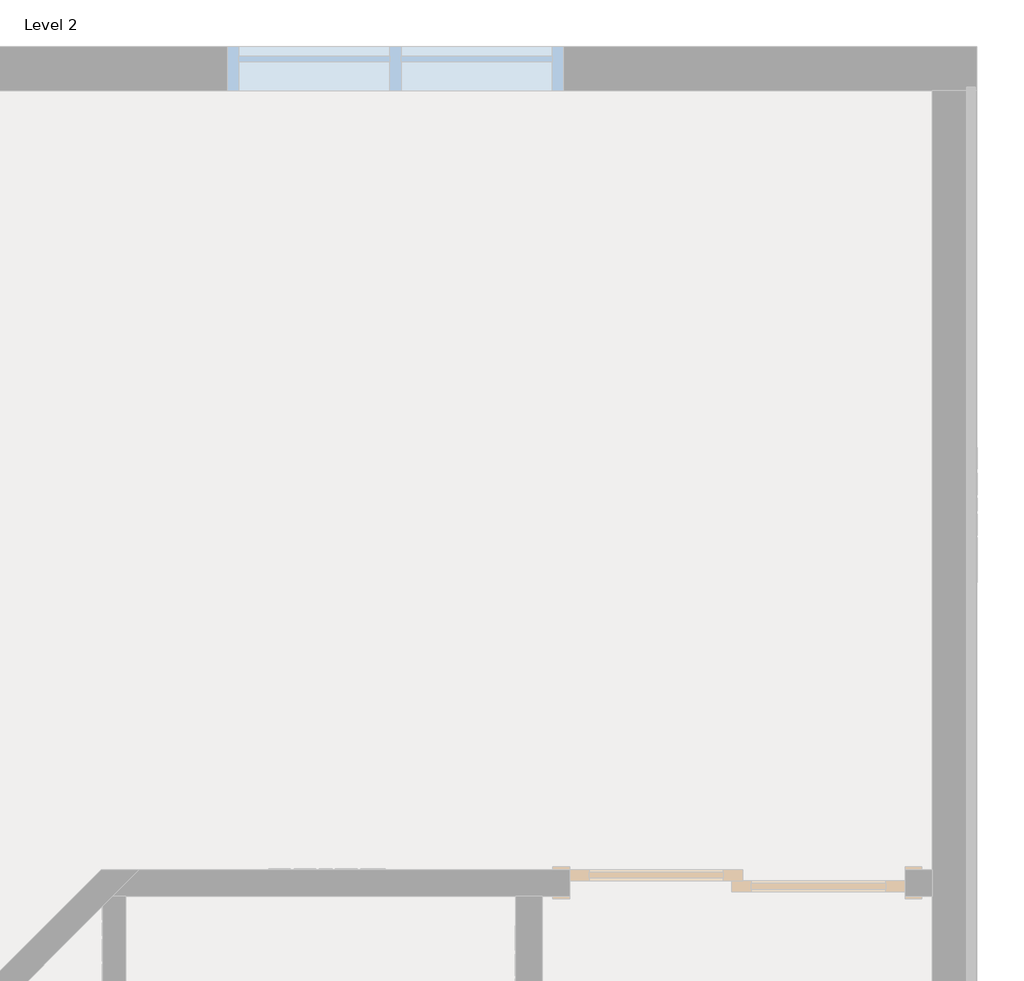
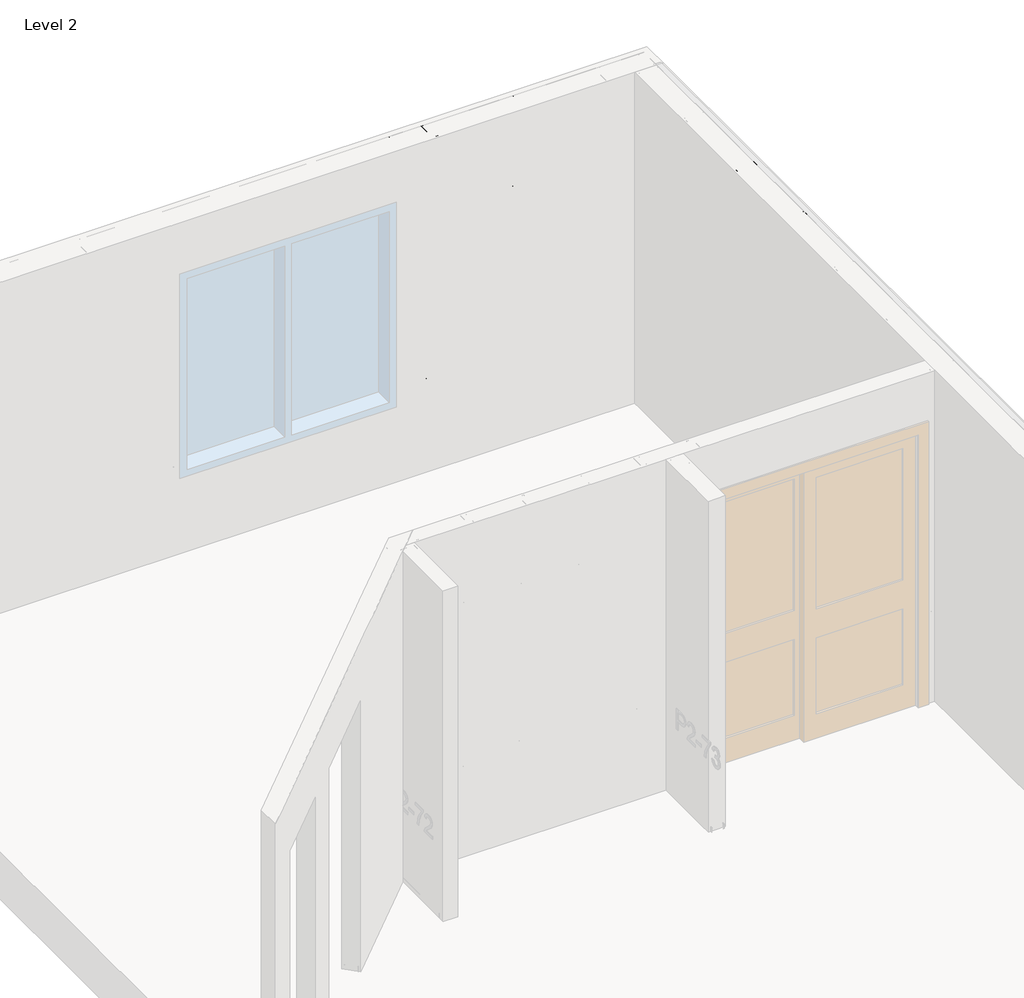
# One storey, part 45 of 46: 6 columns.
"""IFC4 building model written with IfcOpenShell, lengths in millimetres."""

from ifc_helpers import new_model, si_unit, point, frame, origin, place, context, project, spatial, circle_curve, ellipse_curve, trimmed, element, save
from ifc_brep_helpers import plane_surface, extruded_surface, advanced_brep

model = new_model("IFC4")

# Units and contexts
model_context = context("Model", 3, world=origin())
ifc_project = project(units=[si_unit("LENGTHUNIT", "METRE", prefix="MILLI")], contexts=[model_context])

# Site, building, storey
site = spatial("IfcSite", under=ifc_project)
building = spatial("IfcBuilding", under=site)
storey = spatial("IfcBuildingStorey", under=building, Name="Level 2", Elevation=3060.7)

# Columns
placement = place(None, origin())
element("IfcColumn", 1, ObjectType="BIMSF-SSMA-S-Column : 550NF150-43", at=placement, inside=storey, context=model_context, shape_type="AdvancedBrep", body=[
    advanced_brep(
    [(-4903.3824436, 13865.352221, 3061.5929687), (-4903.3824436, 14005.052221, 3061.5929687), (-4865.2824436, 14005.052221, 3061.5929687), (-4865.2824436, 13999.1273367, 3061.5929687), (-4866.4321278, 13999.1273367, 3061.5929687), (-4866.4321278, 14003.9025367, 3061.5929687), (-4902.2327594, 14003.9025367, 3061.5929687), (-4902.2327594, 13866.5019052, 3061.5929687), (-4866.4321278, 13866.5019052, 3061.5929687), (-4866.4321278, 13871.2771052, 3061.5929687), (-4865.2824436, 13871.2771052, 3061.5929687), (-4865.2824436, 13865.352221, 3061.5929687), (-4903.3824436, 13865.352221, 5523.6070313), (-4903.3824436, 14005.052221, 5523.6070313), (-4903.3824436, 13947.902221, 3671.1929688), (-4903.3824436, 13922.502221, 3671.1929688), (-4903.3824436, 13947.902221, 4890.3929687), (-4903.3824436, 13922.502221, 4890.3929687), (-4865.2824436, 14005.052221, 5523.6070313), (-4865.2824436, 13999.1273367, 5523.6070313), (-4866.4321278, 13999.1273367, 5523.6070313), (-4866.4321278, 14003.9025367, 5523.6070313), (-4902.2327594, 14003.9025367, 5523.6070313), (-4902.2327594, 13866.5019052, 5523.6070313), (-4902.2327594, 13922.502221, 3671.1929688), (-4902.2327594, 13947.902221, 3671.1929688), (-4902.2327594, 13922.502221, 4890.3929687), (-4902.2327594, 13947.902221, 4890.3929687), (-4866.4321278, 13866.5019052, 5523.6070313), (-4866.4321278, 13871.2771052, 5523.6070313), (-4865.2824436, 13871.2771052, 5523.6070313), (-4865.2824436, 13865.352221, 5523.6070313)],
    [
        (0, 1),
        (1, 2),
        (2, 3),
        (3, 4),
        (4, 5),
        (5, 6),
        (6, 7),
        (7, 8),
        (8, 9),
        (9, 10),
        (10, 11),
        (11, 0),
        (0, 12),
        (12, 13),
        (13, 1),
        (14, 15, circle_curve(frame((-4903.3824436, 13935.202221, 3671.1929687), z_axis=(1.0, 0.0, 0.0), x_axis=(0.0, 1.0, 0.0)), 12.7)),
        (15, 14, circle_curve(frame((-4903.3824436, 13935.202221, 3671.1929687), z_axis=(1.0, 0.0, 0.0), x_axis=(0.0, 1.0, 0.0)), 12.7)),
        (16, 17, circle_curve(frame((-4903.3824436, 13935.202221, 4890.3929687), z_axis=(1.0, 0.0, 0.0), x_axis=(0.0, 1.0, 0.0)), 12.7)),
        (17, 16, circle_curve(frame((-4903.3824436, 13935.202221, 4890.3929687), z_axis=(1.0, 0.0, 0.0), x_axis=(0.0, 1.0, 0.0)), 12.7)),
        (13, 18),
        (18, 2),
        (18, 19),
        (19, 3),
        (19, 20),
        (20, 4),
        (20, 21),
        (21, 5),
        (21, 22),
        (22, 6),
        (22, 23),
        (23, 7),
        (24, 25, circle_curve(frame((-4902.2327594, 13935.202221, 3671.1929687), z_axis=(-1.0, 0.0, 0.0), x_axis=(0.0, 1.0, 0.0)), 12.7)),
        (25, 24, circle_curve(frame((-4902.2327594, 13935.202221, 3671.1929687), z_axis=(-1.0, 0.0, 0.0), x_axis=(0.0, 1.0, 0.0)), 12.7)),
        (26, 27, circle_curve(frame((-4902.2327594, 13935.202221, 4890.3929687), z_axis=(-1.0, 0.0, 0.0), x_axis=(0.0, 1.0, 0.0)), 12.7)),
        (27, 26, circle_curve(frame((-4902.2327594, 13935.202221, 4890.3929687), z_axis=(-1.0, 0.0, 0.0), x_axis=(0.0, 1.0, 0.0)), 12.7)),
        (23, 28),
        (28, 8),
        (28, 29),
        (29, 9),
        (29, 30),
        (30, 10),
        (30, 31),
        (31, 11),
        (31, 12),
        (24, 15),
        (14, 25),
        (26, 17),
        (16, 27),
    ],
    [
        plane_surface(frame((-4903.3824436, 13865.352221, 3061.5929687), z_axis=(0.0, 0.0, -1.0), x_axis=(-1.0, 0.0, 0.0))),
        plane_surface(frame((-4903.3824436, 14005.052221, 5523.6070313), z_axis=(-1.0, 0.0, 0.0), x_axis=(0.0, 0.0, -1.0))),
        plane_surface(frame((-4865.2824436, 14005.052221, 5523.6070313), z_axis=(0.0, 1.0, 0.0), x_axis=(0.0, 0.0, -1.0))),
        plane_surface(frame((-4865.2824436, 13999.1273367, 5523.6070313), z_axis=(1.0, 0.0, 0.0), x_axis=(0.0, 0.0, -1.0))),
        plane_surface(frame((-4866.4321278, 13999.1273367, 5523.6070313), z_axis=(0.0, -1.0, 0.0), x_axis=(0.0, 0.0, -1.0))),
        plane_surface(frame((-4866.4321278, 14003.9025367, 5523.6070313), z_axis=(-1.0, 0.0, 0.0), x_axis=(0.0, 0.0, -1.0))),
        plane_surface(frame((-4902.2327594, 14003.9025367, 5523.6070313), z_axis=(0.0, -1.0, 0.0), x_axis=(0.0, 0.0, -1.0))),
        plane_surface(frame((-4902.2327594, 13866.5019052, 5523.6070313), z_axis=(1.0, 0.0, 0.0), x_axis=(0.0, 0.0, -1.0))),
        plane_surface(frame((-4866.4321278, 13866.5019052, 5523.6070313), z_axis=(0.0, 1.0, 0.0), x_axis=(0.0, 0.0, -1.0))),
        plane_surface(frame((-4866.4321278, 13871.2771052, 5523.6070313), z_axis=(-1.0, 0.0, 0.0), x_axis=(0.0, 0.0, -1.0))),
        plane_surface(frame((-4865.2824436, 13871.2771052, 5523.6070313), z_axis=(0.0, 1.0, 0.0), x_axis=(0.0, 0.0, -1.0))),
        plane_surface(frame((-4865.2824436, 13865.352221, 5523.6070313), z_axis=(1.0, 0.0, 0.0), x_axis=(0.0, 0.0, -1.0))),
        plane_surface(frame((-4903.3824436, 13865.352221, 5523.6070313), z_axis=(0.0, -1.0, 0.0), x_axis=(0.0, 0.0, -1.0))),
        plane_surface(frame((-4903.3824436, 13865.352221, 5523.6070313), z_axis=(0.0, 0.0, 1.0), x_axis=(1.0, 0.0, 0.0))),
        extruded_surface(trimmed(ellipse_curve(frame((-2422.3183811, 13935.202221, 3671.1929688), z_axis=(-1.0, 0.0, 0.0), x_axis=(0.0, 1.0, 0.0)), 12.7, 12.7), [point((-2422.3183811, 13922.502221, 3671.1929688))], [point((-2422.3183811, 13947.902221, 3671.1929688))], True, "CARTESIAN"), (4924.028125, 0.0, 0.0), 4924.028125),
        extruded_surface(trimmed(ellipse_curve(frame((-2422.3183811, 13935.202221, 3671.1929688), z_axis=(-1.0, 0.0, 0.0), x_axis=(0.0, 1.0, 0.0)), 12.7, 12.7), [point((-2422.3183811, 13947.902221, 3671.1929688))], [point((-2422.3183811, 13922.502221, 3671.1929688))], True, "CARTESIAN"), (4924.028125, 0.0, 0.0), 4924.028125),
        extruded_surface(trimmed(ellipse_curve(frame((-2422.3183811, 13935.202221, 4890.3929687), z_axis=(-1.0, 0.0, 0.0), x_axis=(0.0, 1.0, 0.0)), 12.7, 12.7), [point((-2422.3183811, 13922.502221, 4890.3929687))], [point((-2422.3183811, 13947.902221, 4890.3929687))], True, "CARTESIAN"), (4924.028125, 0.0, 0.0), 4924.028125),
        extruded_surface(trimmed(ellipse_curve(frame((-2422.3183811, 13935.202221, 4890.3929687), z_axis=(-1.0, 0.0, 0.0), x_axis=(0.0, 1.0, 0.0)), 12.7, 12.7), [point((-2422.3183811, 13947.902221, 4890.3929687))], [point((-2422.3183811, 13922.502221, 4890.3929687))], True, "CARTESIAN"), (4924.028125, 0.0, 0.0), 4924.028125),
    ],
    [
        (0, [[1, 2, 3, 4, 5, 6, 7, 8, 9, 10, 11, 12]]),
        (1, [[-1, 13, 14, 15], [16, 17], [18, 19]]),
        (2, [[-2, -15, 20, 21]]),
        (3, [[-3, -21, 22, 23]]),
        (4, [[-4, -23, 24, 25]]),
        (5, [[-5, -25, 26, 27]]),
        (6, [[-6, -27, 28, 29]]),
        (7, [[-7, -29, 30, 31], [32, 33], [34, 35]]),
        (8, [[-8, -31, 36, 37]]),
        (9, [[-9, -37, 38, 39]]),
        (10, [[-10, -39, 40, 41]]),
        (11, [[-11, -41, 42, 43]]),
        (12, [[-12, -43, 44, -13]]),
        (13, [[-14, -44, -42, -40, -38, -36, -30, -28, -26, -24, -22, -20]]),
        (14, [[45, -16, 46, -32]]),
        (15, [[-45, -33, -46, -17]]),
        (16, [[47, -18, 48, -34]]),
        (17, [[-47, -35, -48, -19]]),
    ],
),
])
element("IfcColumn", 2, ObjectType="BIMSF-SSMA-S-Column : 550NF150-43", at=placement, inside=storey, context=model_context, shape_type="AdvancedBrep", body=[
    advanced_brep(
    [(-5250.2889911, 13865.352221, 3061.5929687), (-5250.2889911, 14005.052221, 3061.5929687), (-5212.1889911, 14005.052221, 3061.5929687), (-5212.1889911, 13999.1273367, 3061.5929687), (-5213.3386753, 13999.1273367, 3061.5929687), (-5213.3386753, 14003.9025367, 3061.5929687), (-5249.1393069, 14003.9025367, 3061.5929687), (-5249.1393069, 13866.5019052, 3061.5929687), (-5213.3386753, 13866.5019052, 3061.5929687), (-5213.3386753, 13871.2771052, 3061.5929687), (-5212.1889911, 13871.2771052, 3061.5929687), (-5212.1889911, 13865.352221, 3061.5929687), (-5250.2889911, 13865.352221, 3615.4320313), (-5250.2889911, 14005.052221, 3615.4320313), (-5250.2889911, 13947.902221, 3366.3929687), (-5250.2889911, 13922.502221, 3366.3929687), (-5212.1889911, 14005.052221, 3615.4320313), (-5212.1889911, 13999.1273367, 3615.4320313), (-5213.3386753, 13999.1273367, 3615.4320313), (-5213.3386753, 14003.9025367, 3615.4320313), (-5249.1393069, 14003.9025367, 3615.4320313), (-5249.1393069, 13866.5019052, 3615.4320313), (-5249.1393069, 13922.502221, 3366.3929687), (-5249.1393069, 13947.902221, 3366.3929687), (-5213.3386753, 13866.5019052, 3615.4320313), (-5213.3386753, 13871.2771052, 3615.4320313), (-5212.1889911, 13871.2771052, 3615.4320313), (-5212.1889911, 13865.352221, 3615.4320313)],
    [
        (0, 1),
        (1, 2),
        (2, 3),
        (3, 4),
        (4, 5),
        (5, 6),
        (6, 7),
        (7, 8),
        (8, 9),
        (9, 10),
        (10, 11),
        (11, 0),
        (0, 12),
        (12, 13),
        (13, 1),
        (14, 15, circle_curve(frame((-5250.2889911, 13935.202221, 3366.3929688), z_axis=(1.0, 0.0, 0.0), x_axis=(0.0, 1.0, 0.0)), 12.7)),
        (15, 14, circle_curve(frame((-5250.2889911, 13935.202221, 3366.3929688), z_axis=(1.0, 0.0, 0.0), x_axis=(0.0, 1.0, 0.0)), 12.7)),
        (13, 16),
        (16, 2),
        (16, 17),
        (17, 3),
        (17, 18),
        (18, 4),
        (18, 19),
        (19, 5),
        (19, 20),
        (20, 6),
        (20, 21),
        (21, 7),
        (22, 23, circle_curve(frame((-5249.1393069, 13935.202221, 3366.3929687), z_axis=(-1.0, 0.0, 0.0), x_axis=(0.0, 1.0, 0.0)), 12.7)),
        (23, 22, circle_curve(frame((-5249.1393069, 13935.202221, 3366.3929687), z_axis=(-1.0, 0.0, 0.0), x_axis=(0.0, 1.0, 0.0)), 12.7)),
        (21, 24),
        (24, 8),
        (24, 25),
        (25, 9),
        (25, 26),
        (26, 10),
        (26, 27),
        (27, 11),
        (27, 12),
        (22, 15),
        (14, 23),
    ],
    [
        plane_surface(frame((-5250.2889911, 13865.352221, 3061.5929687), z_axis=(0.0, 0.0, -1.0), x_axis=(-1.0, 0.0, 0.0))),
        plane_surface(frame((-5250.2889911, 14005.052221, 3615.4320313), z_axis=(-1.0, 0.0, 0.0), x_axis=(0.0, 0.0, -1.0))),
        plane_surface(frame((-5212.1889911, 14005.052221, 3615.4320313), z_axis=(0.0, 1.0, 0.0), x_axis=(0.0, 0.0, -1.0))),
        plane_surface(frame((-5212.1889911, 13999.1273367, 3615.4320313), z_axis=(1.0, 0.0, 0.0), x_axis=(0.0, 0.0, -1.0))),
        plane_surface(frame((-5213.3386753, 13999.1273367, 3615.4320313), z_axis=(0.0, -1.0, 0.0), x_axis=(0.0, 0.0, -1.0))),
        plane_surface(frame((-5213.3386753, 14003.9025367, 3615.4320313), z_axis=(-1.0, 0.0, 0.0), x_axis=(0.0, 0.0, -1.0))),
        plane_surface(frame((-5249.1393069, 14003.9025367, 3615.4320313), z_axis=(0.0, -1.0, 0.0), x_axis=(0.0, 0.0, -1.0))),
        plane_surface(frame((-5249.1393069, 13866.5019052, 3615.4320313), z_axis=(1.0, 0.0, 0.0), x_axis=(0.0, 0.0, -1.0))),
        plane_surface(frame((-5213.3386753, 13866.5019052, 3615.4320313), z_axis=(0.0, 1.0, 0.0), x_axis=(0.0, 0.0, -1.0))),
        plane_surface(frame((-5213.3386753, 13871.2771052, 3615.4320313), z_axis=(-1.0, 0.0, 0.0), x_axis=(0.0, 0.0, -1.0))),
        plane_surface(frame((-5212.1889911, 13871.2771052, 3615.4320313), z_axis=(0.0, 1.0, 0.0), x_axis=(0.0, 0.0, -1.0))),
        plane_surface(frame((-5212.1889911, 13865.352221, 3615.4320313), z_axis=(1.0, 0.0, 0.0), x_axis=(0.0, 0.0, -1.0))),
        plane_surface(frame((-5250.2889911, 13865.352221, 3615.4320313), z_axis=(0.0, -1.0, 0.0), x_axis=(0.0, 0.0, -1.0))),
        plane_surface(frame((-5250.2889911, 13865.352221, 3615.4320313), z_axis=(0.0, 0.0, 1.0), x_axis=(1.0, 0.0, 0.0))),
        extruded_surface(trimmed(ellipse_curve(frame((-4677.3999286, 13935.202221, 3366.3929687), z_axis=(-1.0, 0.0, 0.0), x_axis=(0.0, 1.0, 0.0)), 12.7, 12.7), [point((-4677.3999286, 13922.502221, 3366.3929687))], [point((-4677.3999286, 13947.902221, 3366.3929687))], True, "CARTESIAN"), (1107.678125, 0.0, 0.0), 1107.678125),
        extruded_surface(trimmed(ellipse_curve(frame((-4677.3999286, 13935.202221, 3366.3929687), z_axis=(-1.0, 0.0, 0.0), x_axis=(0.0, 1.0, 0.0)), 12.7, 12.7), [point((-4677.3999286, 13947.902221, 3366.3929687))], [point((-4677.3999286, 13922.502221, 3366.3929687))], True, "CARTESIAN"), (1107.678125, 0.0, 0.0), 1107.678125),
    ],
    [
        (0, [[1, 2, 3, 4, 5, 6, 7, 8, 9, 10, 11, 12]]),
        (1, [[-1, 13, 14, 15], [16, 17]]),
        (2, [[-2, -15, 18, 19]]),
        (3, [[-3, -19, 20, 21]]),
        (4, [[-4, -21, 22, 23]]),
        (5, [[-5, -23, 24, 25]]),
        (6, [[-6, -25, 26, 27]]),
        (7, [[-7, -27, 28, 29], [30, 31]]),
        (8, [[-8, -29, 32, 33]]),
        (9, [[-9, -33, 34, 35]]),
        (10, [[-10, -35, 36, 37]]),
        (11, [[-11, -37, 38, 39]]),
        (12, [[-12, -39, 40, -13]]),
        (13, [[-14, -40, -38, -36, -34, -32, -28, -26, -24, -22, -20, -18]]),
        (14, [[41, -16, 42, -30]]),
        (15, [[-41, -31, -42, -17]]),
    ],
),
])
element("IfcColumn", 3, ObjectType="BIMSF-SSMA-S-Column : 550NF150-43", at=placement, inside=storey, context=model_context, shape_type="AdvancedBrep", body=[
    advanced_brep(
    [(-4640.6889911, 13865.352221, 3061.5929687), (-4640.6889911, 14005.052221, 3061.5929687), (-4602.5889911, 14005.052221, 3061.5929687), (-4602.5889911, 13999.1273367, 3061.5929687), (-4603.7386753, 13999.1273367, 3061.5929687), (-4603.7386753, 14003.9025367, 3061.5929687), (-4639.5393069, 14003.9025367, 3061.5929687), (-4639.5393069, 13866.5019052, 3061.5929687), (-4603.7386753, 13866.5019052, 3061.5929687), (-4603.7386753, 13871.2771052, 3061.5929687), (-4602.5889911, 13871.2771052, 3061.5929687), (-4602.5889911, 13865.352221, 3061.5929687), (-4640.6889911, 13865.352221, 5523.6070313), (-4640.6889911, 14005.052221, 5523.6070313), (-4640.6889911, 13947.902221, 3671.1929688), (-4640.6889911, 13922.502221, 3671.1929688), (-4640.6889911, 13947.902221, 4890.3929687), (-4640.6889911, 13922.502221, 4890.3929687), (-4602.5889911, 14005.052221, 5523.6070313), (-4602.5889911, 13999.1273367, 5523.6070313), (-4603.7386753, 13999.1273367, 5523.6070313), (-4603.7386753, 14003.9025367, 5523.6070313), (-4639.5393069, 14003.9025367, 5523.6070313), (-4639.5393069, 13866.5019052, 5523.6070313), (-4639.5393069, 13922.502221, 3671.1929688), (-4639.5393069, 13947.902221, 3671.1929688), (-4639.5393069, 13922.502221, 4890.3929687), (-4639.5393069, 13947.902221, 4890.3929687), (-4603.7386753, 13866.5019052, 5523.6070313), (-4603.7386753, 13871.2771052, 5523.6070313), (-4602.5889911, 13871.2771052, 5523.6070313), (-4602.5889911, 13865.352221, 5523.6070313)],
    [
        (0, 1),
        (1, 2),
        (2, 3),
        (3, 4),
        (4, 5),
        (5, 6),
        (6, 7),
        (7, 8),
        (8, 9),
        (9, 10),
        (10, 11),
        (11, 0),
        (0, 12),
        (12, 13),
        (13, 1),
        (14, 15, circle_curve(frame((-4640.6889911, 13935.202221, 3671.1929687), z_axis=(1.0, 0.0, 0.0), x_axis=(0.0, 1.0, 0.0)), 12.7)),
        (15, 14, circle_curve(frame((-4640.6889911, 13935.202221, 3671.1929687), z_axis=(1.0, 0.0, 0.0), x_axis=(0.0, 1.0, 0.0)), 12.7)),
        (16, 17, circle_curve(frame((-4640.6889911, 13935.202221, 4890.3929687), z_axis=(1.0, 0.0, 0.0), x_axis=(0.0, 1.0, 0.0)), 12.7)),
        (17, 16, circle_curve(frame((-4640.6889911, 13935.202221, 4890.3929687), z_axis=(1.0, 0.0, 0.0), x_axis=(0.0, 1.0, 0.0)), 12.7)),
        (13, 18),
        (18, 2),
        (18, 19),
        (19, 3),
        (19, 20),
        (20, 4),
        (20, 21),
        (21, 5),
        (21, 22),
        (22, 6),
        (22, 23),
        (23, 7),
        (24, 25, circle_curve(frame((-4639.5393069, 13935.202221, 3671.1929688), z_axis=(-1.0, 0.0, 0.0), x_axis=(0.0, 1.0, 0.0)), 12.7)),
        (25, 24, circle_curve(frame((-4639.5393069, 13935.202221, 3671.1929688), z_axis=(-1.0, 0.0, 0.0), x_axis=(0.0, 1.0, 0.0)), 12.7)),
        (26, 27, circle_curve(frame((-4639.5393069, 13935.202221, 4890.3929687), z_axis=(-1.0, 0.0, 0.0), x_axis=(0.0, 1.0, 0.0)), 12.7)),
        (27, 26, circle_curve(frame((-4639.5393069, 13935.202221, 4890.3929687), z_axis=(-1.0, 0.0, 0.0), x_axis=(0.0, 1.0, 0.0)), 12.7)),
        (23, 28),
        (28, 8),
        (28, 29),
        (29, 9),
        (29, 30),
        (30, 10),
        (30, 31),
        (31, 11),
        (31, 12),
        (24, 15),
        (14, 25),
        (26, 17),
        (16, 27),
    ],
    [
        plane_surface(frame((-4640.6889911, 13865.352221, 3061.5929687), z_axis=(0.0, 0.0, -1.0), x_axis=(-1.0, 0.0, 0.0))),
        plane_surface(frame((-4640.6889911, 14005.052221, 5523.6070313), z_axis=(-1.0, 0.0, 0.0), x_axis=(0.0, 0.0, -1.0))),
        plane_surface(frame((-4602.5889911, 14005.052221, 5523.6070313), z_axis=(0.0, 1.0, 0.0), x_axis=(0.0, 0.0, -1.0))),
        plane_surface(frame((-4602.5889911, 13999.1273367, 5523.6070313), z_axis=(1.0, 0.0, 0.0), x_axis=(0.0, 0.0, -1.0))),
        plane_surface(frame((-4603.7386753, 13999.1273367, 5523.6070313), z_axis=(0.0, -1.0, 0.0), x_axis=(0.0, 0.0, -1.0))),
        plane_surface(frame((-4603.7386753, 14003.9025367, 5523.6070313), z_axis=(-1.0, 0.0, 0.0), x_axis=(0.0, 0.0, -1.0))),
        plane_surface(frame((-4639.5393069, 14003.9025367, 5523.6070313), z_axis=(0.0, -1.0, 0.0), x_axis=(0.0, 0.0, -1.0))),
        plane_surface(frame((-4639.5393069, 13866.5019052, 5523.6070313), z_axis=(1.0, 0.0, 0.0), x_axis=(0.0, 0.0, -1.0))),
        plane_surface(frame((-4603.7386753, 13866.5019052, 5523.6070313), z_axis=(0.0, 1.0, 0.0), x_axis=(0.0, 0.0, -1.0))),
        plane_surface(frame((-4603.7386753, 13871.2771052, 5523.6070313), z_axis=(-1.0, 0.0, 0.0), x_axis=(0.0, 0.0, -1.0))),
        plane_surface(frame((-4602.5889911, 13871.2771052, 5523.6070313), z_axis=(0.0, 1.0, 0.0), x_axis=(0.0, 0.0, -1.0))),
        plane_surface(frame((-4602.5889911, 13865.352221, 5523.6070313), z_axis=(1.0, 0.0, 0.0), x_axis=(0.0, 0.0, -1.0))),
        plane_surface(frame((-4640.6889911, 13865.352221, 5523.6070313), z_axis=(0.0, -1.0, 0.0), x_axis=(0.0, 0.0, -1.0))),
        plane_surface(frame((-4640.6889911, 13865.352221, 5523.6070313), z_axis=(0.0, 0.0, 1.0), x_axis=(1.0, 0.0, 0.0))),
        extruded_surface(trimmed(ellipse_curve(frame((-2159.6249286, 13935.202221, 3671.1929688), z_axis=(-1.0, 0.0, 0.0), x_axis=(0.0, 1.0, 0.0)), 12.7, 12.7), [point((-2159.6249286, 13922.502221, 3671.1929688))], [point((-2159.6249286, 13947.902221, 3671.1929688))], True, "CARTESIAN"), (4924.028125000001, 0.0, 0.0), 4924.028125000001),
        extruded_surface(trimmed(ellipse_curve(frame((-2159.6249286, 13935.202221, 3671.1929688), z_axis=(-1.0, 0.0, 0.0), x_axis=(0.0, 1.0, 0.0)), 12.7, 12.7), [point((-2159.6249286, 13947.902221, 3671.1929688))], [point((-2159.6249286, 13922.502221, 3671.1929688))], True, "CARTESIAN"), (4924.028125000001, 0.0, 0.0), 4924.028125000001),
        extruded_surface(trimmed(ellipse_curve(frame((-2159.6249286, 13935.202221, 4890.3929687), z_axis=(-1.0, 0.0, 0.0), x_axis=(0.0, 1.0, 0.0)), 12.7, 12.7), [point((-2159.6249286, 13922.502221, 4890.3929687))], [point((-2159.6249286, 13947.902221, 4890.3929687))], True, "CARTESIAN"), (4924.028125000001, 0.0, 0.0), 4924.028125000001),
        extruded_surface(trimmed(ellipse_curve(frame((-2159.6249286, 13935.202221, 4890.3929687), z_axis=(-1.0, 0.0, 0.0), x_axis=(0.0, 1.0, 0.0)), 12.7, 12.7), [point((-2159.6249286, 13947.902221, 4890.3929687))], [point((-2159.6249286, 13922.502221, 4890.3929687))], True, "CARTESIAN"), (4924.028125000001, 0.0, 0.0), 4924.028125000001),
    ],
    [
        (0, [[1, 2, 3, 4, 5, 6, 7, 8, 9, 10, 11, 12]]),
        (1, [[-1, 13, 14, 15], [16, 17], [18, 19]]),
        (2, [[-2, -15, 20, 21]]),
        (3, [[-3, -21, 22, 23]]),
        (4, [[-4, -23, 24, 25]]),
        (5, [[-5, -25, 26, 27]]),
        (6, [[-6, -27, 28, 29]]),
        (7, [[-7, -29, 30, 31], [32, 33], [34, 35]]),
        (8, [[-8, -31, 36, 37]]),
        (9, [[-9, -37, 38, 39]]),
        (10, [[-10, -39, 40, 41]]),
        (11, [[-11, -41, 42, 43]]),
        (12, [[-12, -43, 44, -13]]),
        (13, [[-14, -44, -42, -40, -38, -36, -30, -28, -26, -24, -22, -20]]),
        (14, [[45, -16, 46, -32]]),
        (15, [[-45, -33, -46, -17]]),
        (16, [[47, -18, 48, -34]]),
        (17, [[-47, -35, -48, -19]]),
    ],
),
])
element("IfcColumn", 4, ObjectType="BIMSF-SSMA-S-Column : 550NF150-43", at=placement, inside=storey, context=model_context, shape_type="AdvancedBrep", body=[
    advanced_brep(
    [(-4031.0889911, 13865.352221, 3061.5929687), (-4031.0889911, 14005.052221, 3061.5929687), (-3992.9889911, 14005.052221, 3061.5929687), (-3992.9889911, 13999.1273367, 3061.5929687), (-3994.1386753, 13999.1273367, 3061.5929687), (-3994.1386753, 14003.9025367, 3061.5929687), (-4029.9393069, 14003.9025367, 3061.5929687), (-4029.9393069, 13866.5019052, 3061.5929687), (-3994.1386753, 13866.5019052, 3061.5929687), (-3994.1386753, 13871.2771052, 3061.5929687), (-3992.9889911, 13871.2771052, 3061.5929687), (-3992.9889911, 13865.352221, 3061.5929687), (-4031.0889911, 13865.352221, 5523.6070313), (-4031.0889911, 14005.052221, 5523.6070313), (-4031.0889911, 13947.902221, 3671.1929688), (-4031.0889911, 13922.502221, 3671.1929688), (-4031.0889911, 13947.902221, 4890.3929687), (-4031.0889911, 13922.502221, 4890.3929687), (-3992.9889911, 14005.052221, 5523.6070313), (-3992.9889911, 13999.1273367, 5523.6070313), (-3994.1386753, 13999.1273367, 5523.6070313), (-3994.1386753, 14003.9025367, 5523.6070313), (-4029.9393069, 14003.9025367, 5523.6070313), (-4029.9393069, 13866.5019052, 5523.6070313), (-4029.9393069, 13922.502221, 3671.1929688), (-4029.9393069, 13947.902221, 3671.1929688), (-4029.9393069, 13922.502221, 4890.3929687), (-4029.9393069, 13947.902221, 4890.3929687), (-3994.1386753, 13866.5019052, 5523.6070313), (-3994.1386753, 13871.2771052, 5523.6070313), (-3992.9889911, 13871.2771052, 5523.6070313), (-3992.9889911, 13865.352221, 5523.6070313)],
    [
        (0, 1),
        (1, 2),
        (2, 3),
        (3, 4),
        (4, 5),
        (5, 6),
        (6, 7),
        (7, 8),
        (8, 9),
        (9, 10),
        (10, 11),
        (11, 0),
        (0, 12),
        (12, 13),
        (13, 1),
        (14, 15, circle_curve(frame((-4031.0889911, 13935.202221, 3671.1929687), z_axis=(1.0, 0.0, 0.0), x_axis=(0.0, 1.0, 0.0)), 12.7)),
        (15, 14, circle_curve(frame((-4031.0889911, 13935.202221, 3671.1929687), z_axis=(1.0, 0.0, 0.0), x_axis=(0.0, 1.0, 0.0)), 12.7)),
        (16, 17, circle_curve(frame((-4031.0889911, 13935.202221, 4890.3929687), z_axis=(1.0, 0.0, 0.0), x_axis=(0.0, 1.0, 0.0)), 12.7)),
        (17, 16, circle_curve(frame((-4031.0889911, 13935.202221, 4890.3929687), z_axis=(1.0, 0.0, 0.0), x_axis=(0.0, 1.0, 0.0)), 12.7)),
        (13, 18),
        (18, 2),
        (18, 19),
        (19, 3),
        (19, 20),
        (20, 4),
        (20, 21),
        (21, 5),
        (21, 22),
        (22, 6),
        (22, 23),
        (23, 7),
        (24, 25, circle_curve(frame((-4029.9393069, 13935.202221, 3671.1929688), z_axis=(-1.0, 0.0, 0.0), x_axis=(0.0, 1.0, 0.0)), 12.7)),
        (25, 24, circle_curve(frame((-4029.9393069, 13935.202221, 3671.1929688), z_axis=(-1.0, 0.0, 0.0), x_axis=(0.0, 1.0, 0.0)), 12.7)),
        (26, 27, circle_curve(frame((-4029.9393069, 13935.202221, 4890.3929687), z_axis=(-1.0, 0.0, 0.0), x_axis=(0.0, 1.0, 0.0)), 12.7)),
        (27, 26, circle_curve(frame((-4029.9393069, 13935.202221, 4890.3929687), z_axis=(-1.0, 0.0, 0.0), x_axis=(0.0, 1.0, 0.0)), 12.7)),
        (23, 28),
        (28, 8),
        (28, 29),
        (29, 9),
        (29, 30),
        (30, 10),
        (30, 31),
        (31, 11),
        (31, 12),
        (24, 15),
        (14, 25),
        (26, 17),
        (16, 27),
    ],
    [
        plane_surface(frame((-4031.0889911, 13865.352221, 3061.5929687), z_axis=(0.0, 0.0, -1.0), x_axis=(-1.0, 0.0, 0.0))),
        plane_surface(frame((-4031.0889911, 14005.052221, 5523.6070313), z_axis=(-1.0, 0.0, 0.0), x_axis=(0.0, 0.0, -1.0))),
        plane_surface(frame((-3992.9889911, 14005.052221, 5523.6070313), z_axis=(0.0, 1.0, 0.0), x_axis=(0.0, 0.0, -1.0))),
        plane_surface(frame((-3992.9889911, 13999.1273367, 5523.6070313), z_axis=(1.0, 0.0, 0.0), x_axis=(0.0, 0.0, -1.0))),
        plane_surface(frame((-3994.1386753, 13999.1273367, 5523.6070313), z_axis=(0.0, -1.0, 0.0), x_axis=(0.0, 0.0, -1.0))),
        plane_surface(frame((-3994.1386753, 14003.9025367, 5523.6070313), z_axis=(-1.0, 0.0, 0.0), x_axis=(0.0, 0.0, -1.0))),
        plane_surface(frame((-4029.9393069, 14003.9025367, 5523.6070313), z_axis=(0.0, -1.0, 0.0), x_axis=(0.0, 0.0, -1.0))),
        plane_surface(frame((-4029.9393069, 13866.5019052, 5523.6070313), z_axis=(1.0, 0.0, 0.0), x_axis=(0.0, 0.0, -1.0))),
        plane_surface(frame((-3994.1386753, 13866.5019052, 5523.6070313), z_axis=(0.0, 1.0, 0.0), x_axis=(0.0, 0.0, -1.0))),
        plane_surface(frame((-3994.1386753, 13871.2771052, 5523.6070313), z_axis=(-1.0, 0.0, 0.0), x_axis=(0.0, 0.0, -1.0))),
        plane_surface(frame((-3992.9889911, 13871.2771052, 5523.6070313), z_axis=(0.0, 1.0, 0.0), x_axis=(0.0, 0.0, -1.0))),
        plane_surface(frame((-3992.9889911, 13865.352221, 5523.6070313), z_axis=(1.0, 0.0, 0.0), x_axis=(0.0, 0.0, -1.0))),
        plane_surface(frame((-4031.0889911, 13865.352221, 5523.6070313), z_axis=(0.0, -1.0, 0.0), x_axis=(0.0, 0.0, -1.0))),
        plane_surface(frame((-4031.0889911, 13865.352221, 5523.6070313), z_axis=(0.0, 0.0, 1.0), x_axis=(1.0, 0.0, 0.0))),
        extruded_surface(trimmed(ellipse_curve(frame((-1550.0249286, 13935.202221, 3671.1929688), z_axis=(-1.0, 0.0, 0.0), x_axis=(0.0, 1.0, 0.0)), 12.7, 12.7), [point((-1550.0249286, 13922.502221, 3671.1929688))], [point((-1550.0249286, 13947.902221, 3671.1929688))], True, "CARTESIAN"), (4924.028125, 0.0, 0.0), 4924.028125),
        extruded_surface(trimmed(ellipse_curve(frame((-1550.0249286, 13935.202221, 3671.1929688), z_axis=(-1.0, 0.0, 0.0), x_axis=(0.0, 1.0, 0.0)), 12.7, 12.7), [point((-1550.0249286, 13947.902221, 3671.1929688))], [point((-1550.0249286, 13922.502221, 3671.1929688))], True, "CARTESIAN"), (4924.028125, 0.0, 0.0), 4924.028125),
        extruded_surface(trimmed(ellipse_curve(frame((-1550.0249286, 13935.202221, 4890.3929687), z_axis=(-1.0, 0.0, 0.0), x_axis=(0.0, 1.0, 0.0)), 12.7, 12.7), [point((-1550.0249286, 13922.502221, 4890.3929687))], [point((-1550.0249286, 13947.902221, 4890.3929687))], True, "CARTESIAN"), (4924.028125, 0.0, 0.0), 4924.028125),
        extruded_surface(trimmed(ellipse_curve(frame((-1550.0249286, 13935.202221, 4890.3929687), z_axis=(-1.0, 0.0, 0.0), x_axis=(0.0, 1.0, 0.0)), 12.7, 12.7), [point((-1550.0249286, 13947.902221, 4890.3929687))], [point((-1550.0249286, 13922.502221, 4890.3929687))], True, "CARTESIAN"), (4924.028125, 0.0, 0.0), 4924.028125),
    ],
    [
        (0, [[1, 2, 3, 4, 5, 6, 7, 8, 9, 10, 11, 12]]),
        (1, [[-1, 13, 14, 15], [16, 17], [18, 19]]),
        (2, [[-2, -15, 20, 21]]),
        (3, [[-3, -21, 22, 23]]),
        (4, [[-4, -23, 24, 25]]),
        (5, [[-5, -25, 26, 27]]),
        (6, [[-6, -27, 28, 29]]),
        (7, [[-7, -29, 30, 31], [32, 33], [34, 35]]),
        (8, [[-8, -31, 36, 37]]),
        (9, [[-9, -37, 38, 39]]),
        (10, [[-10, -39, 40, 41]]),
        (11, [[-11, -41, 42, 43]]),
        (12, [[-12, -43, 44, -13]]),
        (13, [[-14, -44, -42, -40, -38, -36, -30, -28, -26, -24, -22, -20]]),
        (14, [[45, -16, 46, -32]]),
        (15, [[-45, -33, -46, -17]]),
        (16, [[47, -18, 48, -34]]),
        (17, [[-47, -35, -48, -19]]),
    ],
),
])
element("IfcColumn", 5, ObjectType="BIMSF-SSMA-S-Column : 550NF150-43", at=placement, inside=storey, context=model_context, shape_type="AdvancedBrep", body=[
    advanced_brep(
    [(-3071.9413349, 12627.102221, 3061.5929687), (-3211.6413349, 12627.102221, 3061.5929687), (-3211.6413349, 12665.202221, 3061.5929687), (-3205.7164507, 12665.202221, 3061.5929687), (-3205.7164507, 12664.0525367, 3061.5929687), (-3210.4916507, 12664.0525367, 3061.5929687), (-3210.4916507, 12628.2519052, 3061.5929687), (-3073.0910191, 12628.2519052, 3061.5929687), (-3073.0910191, 12664.0525367, 3061.5929687), (-3077.8662191, 12664.0525367, 3061.5929687), (-3077.8662191, 12665.202221, 3061.5929687), (-3071.9413349, 12665.202221, 3061.5929687), (-3071.9413349, 12627.102221, 5523.6070313), (-3211.6413349, 12627.102221, 5523.6070313), (-3154.4913349, 12627.102221, 3671.1929687), (-3129.0913349, 12627.102221, 3671.1929687), (-3154.4913349, 12627.102221, 4890.3929688), (-3129.0913349, 12627.102221, 4890.3929688), (-3211.6413349, 12665.202221, 5523.6070313), (-3205.7164507, 12665.202221, 5523.6070313), (-3205.7164507, 12664.0525367, 5523.6070313), (-3210.4916507, 12664.0525367, 5523.6070313), (-3210.4916507, 12628.2519052, 5523.6070313), (-3073.0910191, 12628.2519052, 5523.6070313), (-3129.0913349, 12628.2519052, 3671.1929687), (-3154.4913349, 12628.2519052, 3671.1929687), (-3129.0913349, 12628.2519052, 4890.3929688), (-3154.4913349, 12628.2519052, 4890.3929688), (-3073.0910191, 12664.0525367, 5523.6070313), (-3077.8662191, 12664.0525367, 5523.6070313), (-3077.8662191, 12665.202221, 5523.6070313), (-3071.9413349, 12665.202221, 5523.6070313)],
    [
        (0, 1),
        (1, 2),
        (2, 3),
        (3, 4),
        (4, 5),
        (5, 6),
        (6, 7),
        (7, 8),
        (8, 9),
        (9, 10),
        (10, 11),
        (11, 0),
        (0, 12),
        (12, 13),
        (13, 1),
        (14, 15, circle_curve(frame((-3141.7913349, 12627.102221, 3671.1929687), z_axis=(0.0, 1.0, 0.0), x_axis=(-1.0, 0.0, 0.0)), 12.7)),
        (15, 14, circle_curve(frame((-3141.7913349, 12627.102221, 3671.1929687), z_axis=(0.0, 1.0, 0.0), x_axis=(-1.0, 0.0, 0.0)), 12.7)),
        (16, 17, circle_curve(frame((-3141.7913349, 12627.102221, 4890.3929687), z_axis=(0.0, 1.0, 0.0), x_axis=(-1.0, 0.0, 0.0)), 12.7)),
        (17, 16, circle_curve(frame((-3141.7913349, 12627.102221, 4890.3929687), z_axis=(0.0, 1.0, 0.0), x_axis=(-1.0, 0.0, 0.0)), 12.7)),
        (13, 18),
        (18, 2),
        (18, 19),
        (19, 3),
        (19, 20),
        (20, 4),
        (20, 21),
        (21, 5),
        (21, 22),
        (22, 6),
        (22, 23),
        (23, 7),
        (24, 25, circle_curve(frame((-3141.7913349, 12628.2519052, 3671.1929687), z_axis=(0.0, -1.0, 0.0), x_axis=(-1.0, 0.0, 0.0)), 12.7)),
        (25, 24, circle_curve(frame((-3141.7913349, 12628.2519052, 3671.1929687), z_axis=(0.0, -1.0, 0.0), x_axis=(-1.0, 0.0, 0.0)), 12.7)),
        (26, 27, circle_curve(frame((-3141.7913349, 12628.2519052, 4890.3929687), z_axis=(0.0, -1.0, 0.0), x_axis=(-1.0, 0.0, 0.0)), 12.7)),
        (27, 26, circle_curve(frame((-3141.7913349, 12628.2519052, 4890.3929687), z_axis=(0.0, -1.0, 0.0), x_axis=(-1.0, 0.0, 0.0)), 12.7)),
        (23, 28),
        (28, 8),
        (28, 29),
        (29, 9),
        (29, 30),
        (30, 10),
        (30, 31),
        (31, 11),
        (31, 12),
        (24, 15),
        (14, 25),
        (26, 17),
        (16, 27),
    ],
    [
        plane_surface(frame((-3071.9413349, 12627.102221, 3061.5929687), z_axis=(0.0, 0.0, -1.0), x_axis=(0.0, -1.0, 0.0))),
        plane_surface(frame((-3211.6413349, 12627.102221, 5523.6070313), z_axis=(0.0, -1.0, 0.0), x_axis=(0.0, 0.0, -1.0))),
        plane_surface(frame((-3211.6413349, 12665.202221, 5523.6070313), z_axis=(-1.0, 0.0, 0.0), x_axis=(0.0, 0.0, -1.0))),
        plane_surface(frame((-3205.7164507, 12665.202221, 5523.6070313), z_axis=(0.0, 1.0, 0.0), x_axis=(0.0, 0.0, -1.0))),
        plane_surface(frame((-3205.7164507, 12664.0525367, 5523.6070313), z_axis=(1.0, 0.0, 0.0), x_axis=(0.0, 0.0, -1.0))),
        plane_surface(frame((-3210.4916507, 12664.0525367, 5523.6070313), z_axis=(0.0, -1.0, 0.0), x_axis=(0.0, 0.0, -1.0))),
        plane_surface(frame((-3210.4916507, 12628.2519052, 5523.6070313), z_axis=(1.0, 0.0, 0.0), x_axis=(0.0, 0.0, -1.0))),
        plane_surface(frame((-3073.0910191, 12628.2519052, 5523.6070313), z_axis=(0.0, 1.0, 0.0), x_axis=(0.0, 0.0, -1.0))),
        plane_surface(frame((-3073.0910191, 12664.0525367, 5523.6070313), z_axis=(-1.0, 0.0, 0.0), x_axis=(0.0, 0.0, -1.0))),
        plane_surface(frame((-3077.8662191, 12664.0525367, 5523.6070313), z_axis=(0.0, -1.0, 0.0), x_axis=(0.0, 0.0, -1.0))),
        plane_surface(frame((-3077.8662191, 12665.202221, 5523.6070313), z_axis=(-1.0, 0.0, 0.0), x_axis=(0.0, 0.0, -1.0))),
        plane_surface(frame((-3071.9413349, 12665.202221, 5523.6070313), z_axis=(0.0, 1.0, 0.0), x_axis=(0.0, 0.0, -1.0))),
        plane_surface(frame((-3071.9413349, 12627.102221, 5523.6070313), z_axis=(1.0, 0.0, 0.0), x_axis=(0.0, 0.0, -1.0))),
        plane_surface(frame((-3071.9413349, 12627.102221, 5523.6070313), z_axis=(0.0, 0.0, 1.0), x_axis=(0.0, 1.0, 0.0))),
        extruded_surface(trimmed(ellipse_curve(frame((-3141.7913349, 15108.1662835, 3671.1929688), z_axis=(0.0, -1.0, 0.0), x_axis=(-1.0, 0.0, 0.0)), 12.7, 12.7), [point((-3129.0913349, 15108.1662835, 3671.1929688))], [point((-3154.4913349, 15108.1662835, 3671.1929688))], True, "CARTESIAN"), (0.0, 4924.028124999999, 0.0), 4924.028124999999),
        extruded_surface(trimmed(ellipse_curve(frame((-3141.7913349, 15108.1662835, 3671.1929688), z_axis=(0.0, -1.0, 0.0), x_axis=(-1.0, 0.0, 0.0)), 12.7, 12.7), [point((-3154.4913349, 15108.1662835, 3671.1929688))], [point((-3129.0913349, 15108.1662835, 3671.1929688))], True, "CARTESIAN"), (0.0, 4924.028124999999, 0.0), 4924.028124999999),
        extruded_surface(trimmed(ellipse_curve(frame((-3141.7913349, 15108.1662835, 4890.3929687), z_axis=(0.0, -1.0, 0.0), x_axis=(-1.0, 0.0, 0.0)), 12.7, 12.7), [point((-3129.0913349, 15108.1662835, 4890.3929687))], [point((-3154.4913349, 15108.1662835, 4890.3929687))], True, "CARTESIAN"), (0.0, 4924.028124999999, 0.0), 4924.028124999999),
        extruded_surface(trimmed(ellipse_curve(frame((-3141.7913349, 15108.1662835, 4890.3929687), z_axis=(0.0, -1.0, 0.0), x_axis=(-1.0, 0.0, 0.0)), 12.7, 12.7), [point((-3154.4913349, 15108.1662835, 4890.3929687))], [point((-3129.0913349, 15108.1662835, 4890.3929687))], True, "CARTESIAN"), (0.0, 4924.028124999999, 0.0), 4924.028124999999),
    ],
    [
        (0, [[1, 2, 3, 4, 5, 6, 7, 8, 9, 10, 11, 12]]),
        (1, [[-1, 13, 14, 15], [16, 17], [18, 19]]),
        (2, [[-2, -15, 20, 21]]),
        (3, [[-3, -21, 22, 23]]),
        (4, [[-4, -23, 24, 25]]),
        (5, [[-5, -25, 26, 27]]),
        (6, [[-6, -27, 28, 29]]),
        (7, [[-7, -29, 30, 31], [32, 33], [34, 35]]),
        (8, [[-8, -31, 36, 37]]),
        (9, [[-9, -37, 38, 39]]),
        (10, [[-10, -39, 40, 41]]),
        (11, [[-11, -41, 42, 43]]),
        (12, [[-12, -43, 44, -13]]),
        (13, [[-14, -44, -42, -40, -38, -36, -30, -28, -26, -24, -22, -20]]),
        (14, [[45, -16, 46, -32]]),
        (15, [[-45, -33, -46, -17]]),
        (16, [[47, -18, 48, -34]]),
        (17, [[-47, -35, -48, -19]]),
    ],
),
])
element("IfcColumn", 6, ObjectType="BIMSF-SSMA-S-Column : 550NF150-43", at=placement, inside=storey, context=model_context, shape_type="AdvancedBrep", body=[
    advanced_brep(
    [(-3071.9413349, 12017.502221, 3061.5929687), (-3211.6413349, 12017.502221, 3061.5929687), (-3211.6413349, 12055.602221, 3061.5929687), (-3205.7164507, 12055.602221, 3061.5929687), (-3205.7164507, 12054.4525367, 3061.5929687), (-3210.4916507, 12054.4525367, 3061.5929687), (-3210.4916507, 12018.6519052, 3061.5929687), (-3073.0910191, 12018.6519052, 3061.5929687), (-3073.0910191, 12054.4525367, 3061.5929687), (-3077.8662191, 12054.4525367, 3061.5929687), (-3077.8662191, 12055.602221, 3061.5929687), (-3071.9413349, 12055.602221, 3061.5929687), (-3071.9413349, 12017.502221, 5523.6070313), (-3211.6413349, 12017.502221, 5523.6070313), (-3154.4913349, 12017.502221, 3671.1929687), (-3129.0913349, 12017.502221, 3671.1929687), (-3154.4913349, 12017.502221, 4890.3929688), (-3129.0913349, 12017.502221, 4890.3929687), (-3211.6413349, 12055.602221, 5523.6070313), (-3205.7164507, 12055.602221, 5523.6070313), (-3205.7164507, 12054.4525367, 5523.6070313), (-3210.4916507, 12054.4525367, 5523.6070313), (-3210.4916507, 12018.6519052, 5523.6070313), (-3073.0910191, 12018.6519052, 5523.6070313), (-3129.0913349, 12018.6519052, 3671.1929688), (-3154.4913349, 12018.6519052, 3671.1929688), (-3129.0913349, 12018.6519052, 4890.3929688), (-3154.4913349, 12018.6519052, 4890.3929688), (-3073.0910191, 12054.4525367, 5523.6070313), (-3077.8662191, 12054.4525367, 5523.6070313), (-3077.8662191, 12055.602221, 5523.6070313), (-3071.9413349, 12055.602221, 5523.6070313)],
    [
        (0, 1),
        (1, 2),
        (2, 3),
        (3, 4),
        (4, 5),
        (5, 6),
        (6, 7),
        (7, 8),
        (8, 9),
        (9, 10),
        (10, 11),
        (11, 0),
        (0, 12),
        (12, 13),
        (13, 1),
        (14, 15, circle_curve(frame((-3141.7913349, 12017.502221, 3671.1929688), z_axis=(0.0, 1.0, 0.0), x_axis=(-1.0, 0.0, 0.0)), 12.7)),
        (15, 14, circle_curve(frame((-3141.7913349, 12017.502221, 3671.1929688), z_axis=(0.0, 1.0, 0.0), x_axis=(-1.0, 0.0, 0.0)), 12.7)),
        (16, 17, circle_curve(frame((-3141.7913349, 12017.502221, 4890.3929687), z_axis=(0.0, 1.0, 0.0), x_axis=(-1.0, 0.0, 0.0)), 12.7)),
        (17, 16, circle_curve(frame((-3141.7913349, 12017.502221, 4890.3929687), z_axis=(0.0, 1.0, 0.0), x_axis=(-1.0, 0.0, 0.0)), 12.7)),
        (13, 18),
        (18, 2),
        (18, 19),
        (19, 3),
        (19, 20),
        (20, 4),
        (20, 21),
        (21, 5),
        (21, 22),
        (22, 6),
        (22, 23),
        (23, 7),
        (24, 25, circle_curve(frame((-3141.7913349, 12018.6519052, 3671.1929688), z_axis=(0.0, -1.0, 0.0), x_axis=(-1.0, 0.0, 0.0)), 12.7)),
        (25, 24, circle_curve(frame((-3141.7913349, 12018.6519052, 3671.1929688), z_axis=(0.0, -1.0, 0.0), x_axis=(-1.0, 0.0, 0.0)), 12.7)),
        (26, 27, circle_curve(frame((-3141.7913349, 12018.6519052, 4890.3929687), z_axis=(0.0, -1.0, 0.0), x_axis=(-1.0, 0.0, 0.0)), 12.7)),
        (27, 26, circle_curve(frame((-3141.7913349, 12018.6519052, 4890.3929687), z_axis=(0.0, -1.0, 0.0), x_axis=(-1.0, 0.0, 0.0)), 12.7)),
        (23, 28),
        (28, 8),
        (28, 29),
        (29, 9),
        (29, 30),
        (30, 10),
        (30, 31),
        (31, 11),
        (31, 12),
        (24, 15),
        (14, 25),
        (26, 17),
        (16, 27),
    ],
    [
        plane_surface(frame((-3071.9413349, 12017.502221, 3061.5929687), z_axis=(0.0, 0.0, -1.0), x_axis=(0.0, -1.0, 0.0))),
        plane_surface(frame((-3211.6413349, 12017.502221, 5523.6070313), z_axis=(0.0, -1.0, 0.0), x_axis=(0.0, 0.0, -1.0))),
        plane_surface(frame((-3211.6413349, 12055.602221, 5523.6070313), z_axis=(-1.0, 0.0, 0.0), x_axis=(0.0, 0.0, -1.0))),
        plane_surface(frame((-3205.7164507, 12055.602221, 5523.6070313), z_axis=(0.0, 1.0, 0.0), x_axis=(0.0, 0.0, -1.0))),
        plane_surface(frame((-3205.7164507, 12054.4525367, 5523.6070313), z_axis=(1.0, 0.0, 0.0), x_axis=(0.0, 0.0, -1.0))),
        plane_surface(frame((-3210.4916507, 12054.4525367, 5523.6070313), z_axis=(0.0, -1.0, 0.0), x_axis=(0.0, 0.0, -1.0))),
        plane_surface(frame((-3210.4916507, 12018.6519052, 5523.6070313), z_axis=(1.0, 0.0, 0.0), x_axis=(0.0, 0.0, -1.0))),
        plane_surface(frame((-3073.0910191, 12018.6519052, 5523.6070313), z_axis=(0.0, 1.0, 0.0), x_axis=(0.0, 0.0, -1.0))),
        plane_surface(frame((-3073.0910191, 12054.4525367, 5523.6070313), z_axis=(-1.0, 0.0, 0.0), x_axis=(0.0, 0.0, -1.0))),
        plane_surface(frame((-3077.8662191, 12054.4525367, 5523.6070313), z_axis=(0.0, -1.0, 0.0), x_axis=(0.0, 0.0, -1.0))),
        plane_surface(frame((-3077.8662191, 12055.602221, 5523.6070313), z_axis=(-1.0, 0.0, 0.0), x_axis=(0.0, 0.0, -1.0))),
        plane_surface(frame((-3071.9413349, 12055.602221, 5523.6070313), z_axis=(0.0, 1.0, 0.0), x_axis=(0.0, 0.0, -1.0))),
        plane_surface(frame((-3071.9413349, 12017.502221, 5523.6070313), z_axis=(1.0, 0.0, 0.0), x_axis=(0.0, 0.0, -1.0))),
        plane_surface(frame((-3071.9413349, 12017.502221, 5523.6070313), z_axis=(0.0, 0.0, 1.0), x_axis=(0.0, 1.0, 0.0))),
        extruded_surface(trimmed(ellipse_curve(frame((-3141.7913349, 14498.5662835, 3671.1929688), z_axis=(0.0, -1.0, 0.0), x_axis=(-1.0, 0.0, 0.0)), 12.7, 12.7), [point((-3129.0913349, 14498.5662835, 3671.1929688))], [point((-3154.4913349, 14498.5662835, 3671.1929688))], True, "CARTESIAN"), (0.0, 4924.028125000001, 0.0), 4924.028125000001),
        extruded_surface(trimmed(ellipse_curve(frame((-3141.7913349, 14498.5662835, 3671.1929688), z_axis=(0.0, -1.0, 0.0), x_axis=(-1.0, 0.0, 0.0)), 12.7, 12.7), [point((-3154.4913349, 14498.5662835, 3671.1929688))], [point((-3129.0913349, 14498.5662835, 3671.1929688))], True, "CARTESIAN"), (0.0, 4924.028125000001, 0.0), 4924.028125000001),
        extruded_surface(trimmed(ellipse_curve(frame((-3141.7913349, 14498.5662835, 4890.3929687), z_axis=(0.0, -1.0, 0.0), x_axis=(-1.0, 0.0, 0.0)), 12.7, 12.7), [point((-3129.0913349, 14498.5662835, 4890.3929687))], [point((-3154.4913349, 14498.5662835, 4890.3929687))], True, "CARTESIAN"), (0.0, 4924.028125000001, 0.0), 4924.028125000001),
        extruded_surface(trimmed(ellipse_curve(frame((-3141.7913349, 14498.5662835, 4890.3929687), z_axis=(0.0, -1.0, 0.0), x_axis=(-1.0, 0.0, 0.0)), 12.7, 12.7), [point((-3154.4913349, 14498.5662835, 4890.3929687))], [point((-3129.0913349, 14498.5662835, 4890.3929687))], True, "CARTESIAN"), (0.0, 4924.028125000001, 0.0), 4924.028125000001),
    ],
    [
        (0, [[1, 2, 3, 4, 5, 6, 7, 8, 9, 10, 11, 12]]),
        (1, [[-1, 13, 14, 15], [16, 17], [18, 19]]),
        (2, [[-2, -15, 20, 21]]),
        (3, [[-3, -21, 22, 23]]),
        (4, [[-4, -23, 24, 25]]),
        (5, [[-5, -25, 26, 27]]),
        (6, [[-6, -27, 28, 29]]),
        (7, [[-7, -29, 30, 31], [32, 33], [34, 35]]),
        (8, [[-8, -31, 36, 37]]),
        (9, [[-9, -37, 38, 39]]),
        (10, [[-10, -39, 40, 41]]),
        (11, [[-11, -41, 42, 43]]),
        (12, [[-12, -43, 44, -13]]),
        (13, [[-14, -44, -42, -40, -38, -36, -30, -28, -26, -24, -22, -20]]),
        (14, [[45, -16, 46, -32]]),
        (15, [[-45, -33, -46, -17]]),
        (16, [[47, -18, 48, -34]]),
        (17, [[-47, -35, -48, -19]]),
    ],
),
])

save(model, "model.ifc")
